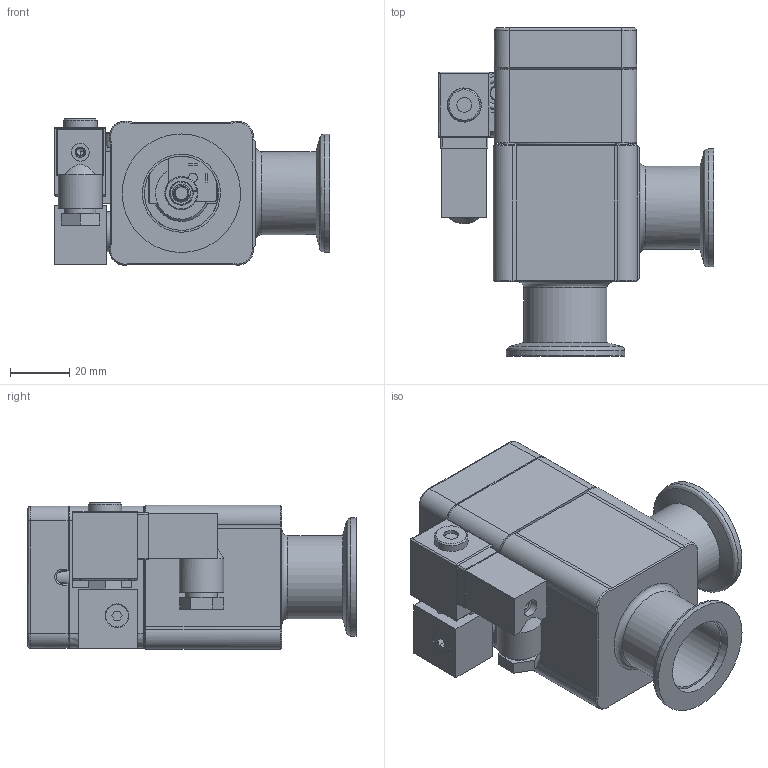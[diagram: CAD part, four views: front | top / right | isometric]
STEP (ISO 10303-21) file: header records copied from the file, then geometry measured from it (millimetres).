
FILE_DESCRIPTION((''),'2;1');
FILE_NAME('C:\TEMP\IDEAS\244098.stp','2006-09-19T15:46:26',('User'),( 'SDRC'),'I-DEAS Master Series 9','UNIX','Yes');
FILE_SCHEMA(('CONFIG_CONTROL_DESIGN'));
Length unit declared in the file: millimetre
Assembly tree (15 placements, depth 0):
Bounding box: 92.85 x 110.6 x 49.4 mm (x, y, z)
Volume: 116149.8 mm3; surface area: 79842.5 mm2
Topology: 19 solids, 25 shells, 754 faces, 1752 edges, 1115 vertices
Faces by surface type: bspline 754
Entity records: 23301 total; most frequent: CARTESIAN_POINT 12040, ORIENTED_EDGE 3176, EDGE_CURVE 1588, VERTEX_POINT 1016, EDGE_LOOP 794, FACE_OUTER_BOUND 679, ADVANCED_FACE 679, QUASI_UNIFORM_CURVE 629
